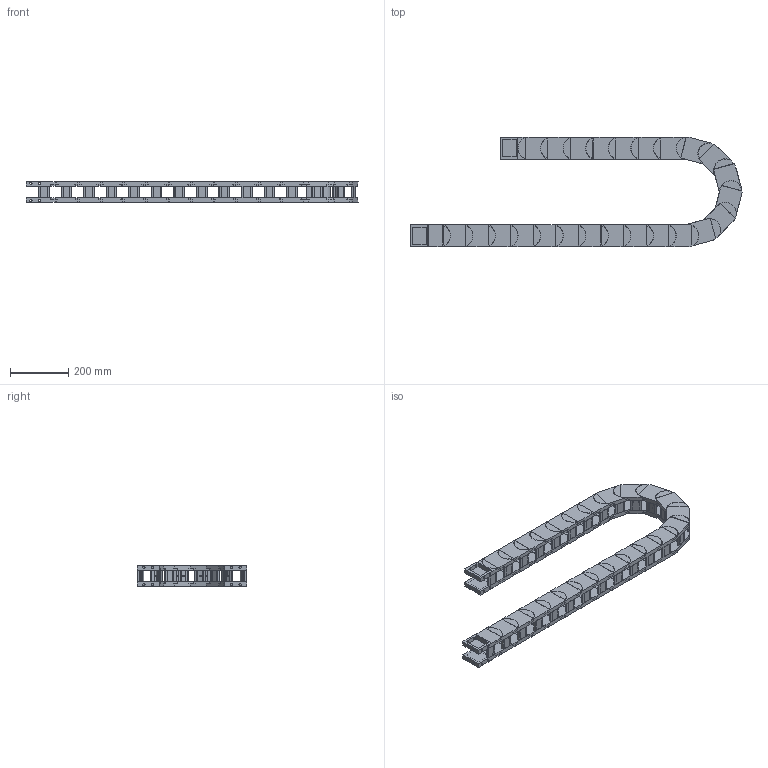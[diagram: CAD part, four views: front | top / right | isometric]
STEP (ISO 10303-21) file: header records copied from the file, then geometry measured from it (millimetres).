
FILE_DESCRIPTION((''),'2;1');
FILE_NAME('HD55-R150-ZPT_ASM','2022-06-17T19:56:33',('admin'),(''),'CREO PARAMETRIC BY PTC INC, 2021164','CREO PARAMETRIC BY PTC INC, 2021164','');
FILE_SCHEMA(('CONFIG_CONTROL_DESIGN','GEOMETRIC_VALIDATION_PROPERTIES_MIM'));
Length unit declared in the file: millimetre
Products named in the file (6): HD-55; 55-500001; HD55_ASM; H55-T1; H55-T2; HD55-R150-ZPT_ASM
Assembly tree (30 placements, depth 3):
  HD55-R150-ZPT_ASM
    HD55_ASM  x24
      HD-55
      55-500001
    H55-T1
    H55-T2
    55-500001  x2
Bounding box: 1139.56 x 376 x 72.2 mm (x, y, z)
Volume: 5198838.7 mm3; surface area: 1650119.4 mm2
Topology: 104 solids, 104 shells, 1726 faces, 4430 edges, 3020 vertices
Faces by surface type: plane 1424, cylinder 302
Entity records: 8783 total; most frequent: CARTESIAN_POINT 1296, DIRECTION 1258, ORIENTED_EDGE 1172, EDGE_CURVE 586, AXIS2_PLACEMENT_3D 420, VECTOR 418, LINE 418, VERTEX_POINT 396
